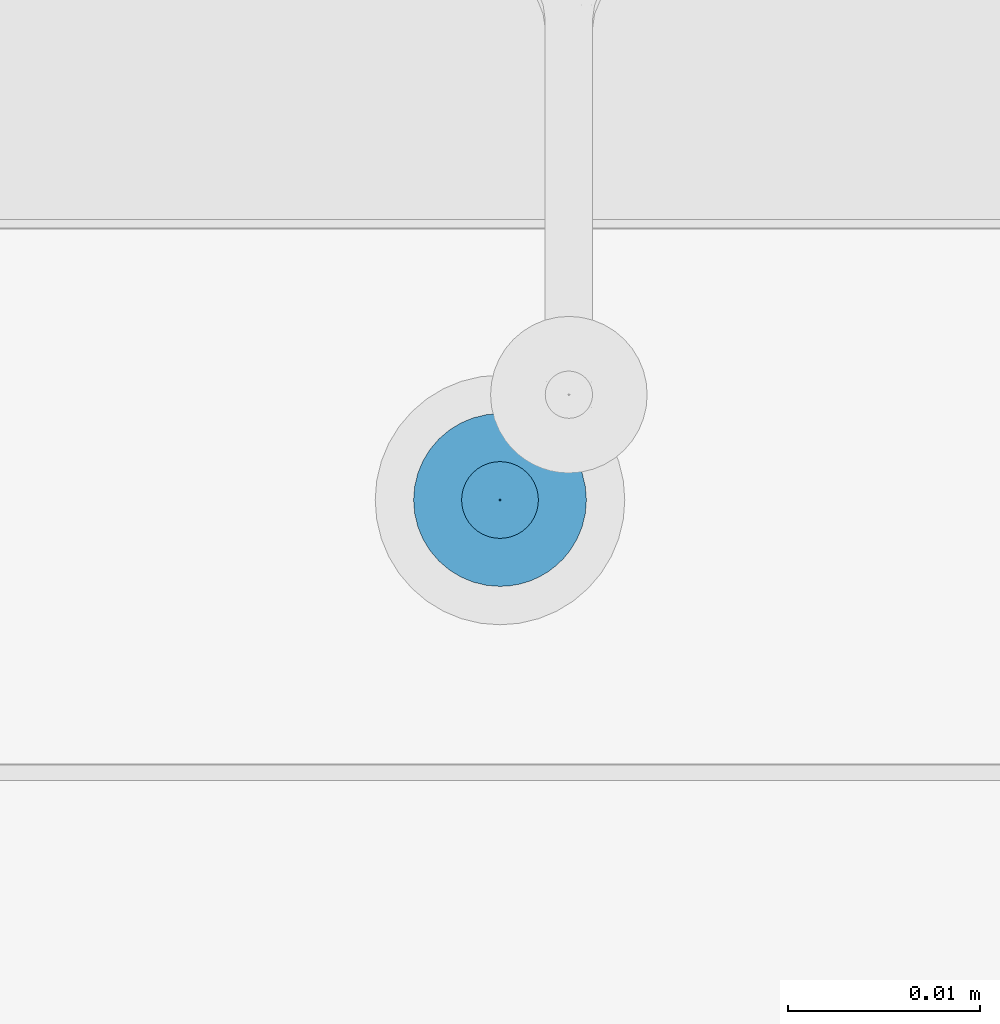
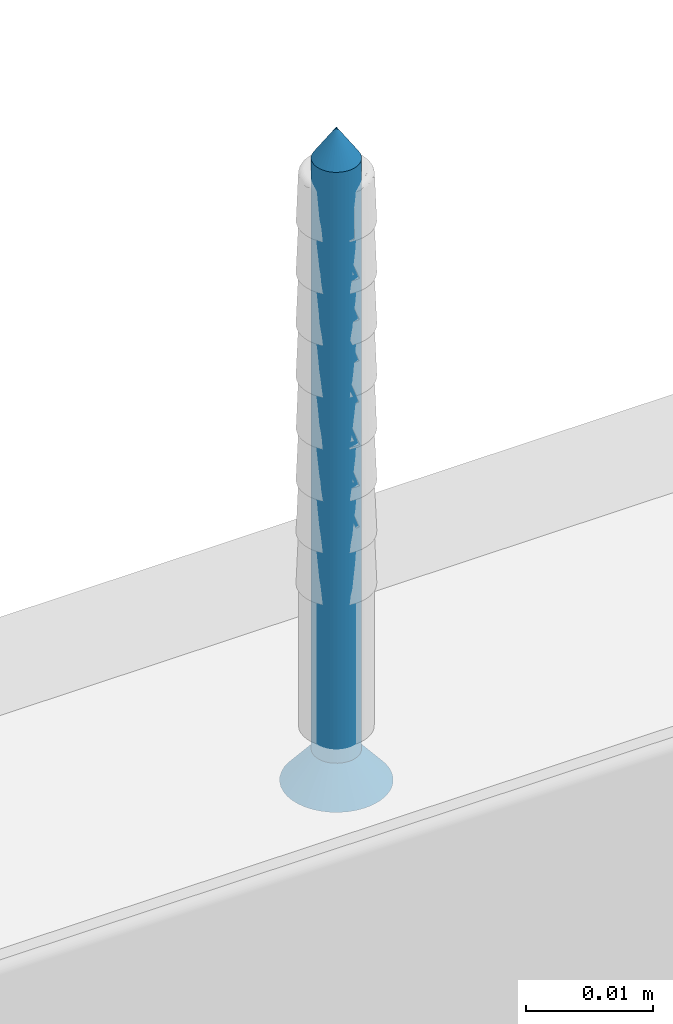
# One storey, part 66 of 79: 1 slab.
"""IFC2X3 building model written with IfcOpenShell, lengths in millimetres."""

import ifcopenshell
import ifcopenshell.guid

model = None  # the IFC model being written
_history = None  # IfcOwnerHistory: only IFC2X3 demands one
_inside = {}  # id of a spatial element -> (the spatial element, [elements in it])
_under = {}  # id of a project, library or spatial element -> (it, [spatial elements below it])
_declared = {}  # id of a project -> (the project, [libraries it declares])
_typed = {}  # id of a type object -> (the type object, [elements of that type])
_made_of = {}  # id of a material, layer set ... -> (it, [elements and type objects made of it])


def new_model(schema):
    """Start an empty IFC model of exactly this schema.

    Asked for "IFC4X3", IfcOpenShell would pick the latest addendum, in which some entities
    have other attributes; the version numbers below select the first issue.
    IFC2X3 requires an IfcOwnerHistory on every rooted entity: one is made here for all.
    """
    global model, _history
    if schema == "IFC4X3":
        model = ifcopenshell.file(schema_version=(4, 3, 0, 0))
    else:
        model = ifcopenshell.file(schema=schema)
    _inside.clear()
    _under.clear()
    _declared.clear()
    _typed.clear()
    _made_of.clear()
    _history = None
    if model.schema == "IFC2X3":
        org = make("IfcOrganization", Name="unknown")
        user = make(
            "IfcPersonAndOrganization",
            ThePerson=make("IfcPerson", FamilyName="unknown"),
            TheOrganization=org,
        )
        app = make(
            "IfcApplication",
            ApplicationDeveloper=org,
            Version="unknown",
            ApplicationFullName="unknown",
            ApplicationIdentifier="unknown",
        )
        _history = make(
            "IfcOwnerHistory",
            OwningUser=user,
            OwningApplication=app,
            ChangeAction="ADDED",
            CreationDate=0,
        )
    return model


def make(cls, **values):
    """One entity of the class cls with the attributes given. An attribute that is None is left unset."""
    return model.create_entity(
        cls, **{name: value for name, value in values.items() if value is not None}
    )


def entity(cls, *values):
    """Any entity or typed value of the class cls, its attributes in the order of the schema. None: left unset."""
    e = model.create_entity(cls)
    for i, value in enumerate(values):
        if value is not None:
            e[i] = value
    return e


def rooted(cls, **values):
    """An entity with a GlobalId (a new one), such as an element, a storey or a relation."""
    return make(cls, GlobalId=ifcopenshell.guid.new(), OwnerHistory=_history, **values)


def si_unit(unit_type, name, prefix=None):
    """IfcSIUnit, for example si_unit("LENGTHUNIT", "METRE", prefix="MILLI")."""
    return make("IfcSIUnit", UnitType=unit_type, Prefix=prefix, Name=name)


def converted_unit(unit_type, name, factor, base, dimensions=None, offset=None):
    """IfcConversionBasedUnit, such as the inch: factor (a typed value) times the base unit."""
    return make(
        "IfcConversionBasedUnit"
        if offset is None
        else "IfcConversionBasedUnitWithOffset",
        ConversionOffset=offset,
        Dimensions=None
        if dimensions is None
        else entity("IfcDimensionalExponents", *dimensions),
        UnitType=unit_type,
        Name=name,
        ConversionFactor=make(
            "IfcMeasureWithUnit", ValueComponent=factor, UnitComponent=base
        ),
    )


def assignment(units):
    """IfcUnitAssignment: the units of a project."""
    return None if units is None else make("IfcUnitAssignment", Units=units)


def point(xyz):
    """IfcCartesianPoint."""
    return None if xyz is None else make("IfcCartesianPoint", Coordinates=xyz)


def direction(xyz):
    """IfcDirection."""
    return None if xyz is None else make("IfcDirection", DirectionRatios=xyz)


def frame(location, z_axis=None, x_axis=None):
    """IfcAxis2Placement3D, a coordinate frame: its origin and axes. An axis left out is left unset."""
    return make(
        "IfcAxis2Placement3D",
        Location=point(location),
        Axis=direction(z_axis),
        RefDirection=direction(x_axis),
    )


def origin():
    """The frame at (0, 0, 0) with its axes left unset."""
    return frame((0.0, 0.0, 0.0))


def origin_with_axes():
    """The frame at (0, 0, 0) with the z axis (0, 0, 1) and the x axis (1, 0, 0) written out."""
    return frame((0.0, 0.0, 0.0), z_axis=(0.0, 0.0, 1.0), x_axis=(1.0, 0.0, 0.0))


def place(relative_to, where):
    """IfcLocalPlacement: puts the frame where relative to a parent placement (None: the world)."""
    return make(
        "IfcLocalPlacement", PlacementRelTo=relative_to, RelativePlacement=where
    )


def context(
    kind, dimensions, precision=None, world=None, true_north=None, identifier=None
):
    """IfcGeometricRepresentationContext, for example the 3D "Model" context."""
    return make(
        "IfcGeometricRepresentationContext",
        ContextIdentifier=identifier,
        ContextType=kind,
        CoordinateSpaceDimension=dimensions,
        Precision=precision,
        WorldCoordinateSystem=world,
        TrueNorth=true_north,
    )


def project(units=None, contexts=None):
    """IfcProject with its units and contexts."""
    return rooted(
        "IfcProject",
        Name="project",
        RepresentationContexts=contexts,
        UnitsInContext=assignment(units),
    )


def spatial(cls, under=None, at=None, **own):
    """A site, building, storey or space (cls), placed at a placement, below another one or the project."""
    s = rooted(cls, ObjectPlacement=at, **own)
    if under is not None:
        _under.setdefault(under.id(), (under, []))[1].append(s)
    return s


def faces_of(points, faces, orient=None, outer=None):
    """IfcFace entities. A face is a list of loops; a loop is a list of indices into points, from 0.

    orient and outer hold one flag for each loop. By default every Orientation is true, the
    first loop of a face is its IfcFaceOuterBound and the others are IfcFaceBound.
    """
    made = []
    for i, loops in enumerate(faces):
        bounds = []
        for j, loop in enumerate(loops):
            is_outer = j == 0 if outer is None else outer[i][j]
            bounds.append(
                make(
                    "IfcFaceOuterBound" if is_outer else "IfcFaceBound",
                    Bound=make("IfcPolyLoop", Polygon=[points[k] for k in loop]),
                    Orientation=True if orient is None else orient[i][j],
                )
            )
        made.append(make("IfcFace", Bounds=bounds))
    return made


def faceted_brep(points, faces, orient=None, outer=None, voids=None):
    """IfcFacetedBrep: a solid bounded by flat faces; with voids (closed shells), ...WithVoids."""
    shared = [point(p) for p in points]
    hull = make("IfcClosedShell", CfsFaces=faces_of(shared, faces, orient, outer))
    if voids is None:
        return make("IfcFacetedBrep", Outer=hull)
    return make(
        "IfcFacetedBrepWithVoids",
        Outer=hull,
        Voids=[
            make(cls, CfsFaces=faces_of(shared, fs, o, b)) for cls, fs, o, b in voids
        ],
    )


def shape(context_of_items, identifier, shape_type, items):
    """IfcShapeRepresentation: the items that make up one representation, for example the "Body"."""
    return make(
        "IfcShapeRepresentation",
        ContextOfItems=context_of_items,
        RepresentationIdentifier=identifier,
        RepresentationType=shape_type,
        Items=items,
    )


def made_of(thing, what):
    """Note that an element or type object is made of a material, layer set ...; save() writes the relation."""
    if what is not None:
        _made_of.setdefault(what.id(), (what, []))[1].append(thing)
    return thing


def element(
    cls,
    number,
    at=None,
    inside=None,
    cuts=None,
    type_object=None,
    material=None,
    context=None,
    identifier="Body",
    shape_type=None,
    held_by="IfcProductDefinitionShape",
    body=None,
    shapes=None,
    **own,
):
    """One element of the class cls, such as IfcWall. Its Tag is "e" and its number.

    at: its placement. inside: the storey or other place that contains it. cuts: it is an
    opening in that element (IfcRelVoidsElement). A single representation is given by context,
    identifier, shape_type and body (its items); several are given by shapes. held_by: the class
    of the entity that holds the representations. save() writes the other relations.
    """
    e = rooted(cls, Tag="e%d" % number, ObjectPlacement=at, **own)
    if body is not None:
        shapes = [shape(context, identifier, shape_type, body)]
    if shapes is not None:
        e.Representation = make(held_by, Representations=shapes)
    if inside is not None:
        _inside.setdefault(inside.id(), (inside, []))[1].append(e)
    if cuts is not None:
        rooted(
            "IfcRelVoidsElement", RelatingBuildingElement=cuts, RelatedOpeningElement=e
        )
    if type_object is not None:
        _typed.setdefault(type_object.id(), (type_object, []))[1].append(e)
    return made_of(e, material)


def aggregate(whole, parts):
    """IfcRelAggregates: a whole, such as a stair, and the parts it consists of."""
    return rooted("IfcRelAggregates", RelatingObject=whole, RelatedObjects=parts)


def save(model, path):
    """Write the relations noted so far, then the file.

    IfcRelAggregates (storeys below a building ...), IfcRelContainedInSpatialStructure (elements
    in a storey), IfcRelDefinesByType, IfcRelAssociatesMaterial and IfcRelDeclares: one each for
    every whole, place, type object, material and project.
    """
    for whole, parts in _under.values():
        aggregate(whole, parts)
    for where, things in _inside.values():
        rooted(
            "IfcRelContainedInSpatialStructure",
            RelatedElements=things,
            RelatingStructure=where,
        )
    for kind, things in _typed.values():
        rooted("IfcRelDefinesByType", RelatedObjects=things, RelatingType=kind)
    for what, things in _made_of.values():
        rooted("IfcRelAssociatesMaterial", RelatedObjects=things, RelatingMaterial=what)
    for by, libraries in _declared.values():
        rooted("IfcRelDeclares", RelatingContext=by, RelatedDefinitions=libraries)
    model.write(path)


model = new_model("IFC2X3")

# Units and contexts
model_context = context("Model", 3, precision=1e-05, world=origin(), true_north=direction((0.0, 1.0, 0.0)))
ifc_project = project(units=[si_unit("LENGTHUNIT", "METRE", prefix="MILLI"), si_unit("AREAUNIT", "SQUARE_METRE"), si_unit("VOLUMEUNIT", "CUBIC_METRE"), converted_unit("PLANEANGLEUNIT", "DEGREE", entity("IfcPlaneAngleMeasure", 0.01745), si_unit("PLANEANGLEUNIT", "RADIAN"), dimensions=[0, 0, 0, 0, 0, 0, 0]), si_unit("SOLIDANGLEUNIT", "STERADIAN"), si_unit("MASSUNIT", "GRAM"), si_unit("TIMEUNIT", "SECOND"), si_unit("THERMODYNAMICTEMPERATUREUNIT", "DEGREE_CELSIUS"), si_unit("LUMINOUSINTENSITYUNIT", "LUMEN")], contexts=[model_context])

# Site, building, storey
site_placement = place(None, origin_with_axes())
site = spatial("IfcSite", under=ifc_project, at=site_placement, Name="Default Site", CompositionType="ELEMENT")
building_placement = place(site_placement, origin_with_axes())
building = spatial("IfcBuilding", under=site, at=building_placement, Name="Default Building", CompositionType="ELEMENT")
storey_placement = place(building_placement, origin_with_axes())
storey = spatial("IfcBuildingStorey", under=building, at=storey_placement, Name="Default Building Storey", CompositionType="ELEMENT", Elevation=0.0)

# Slab
slab_placement = place(storey_placement, frame((2009.755928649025, 5660.599858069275, 1375.213337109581), z_axis=(-7.620176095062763e-14, -6.858158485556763e-13, -1.0), x_axis=(-1.0, -9.714451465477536e-17, 7.620176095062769e-14)))
element("IfcSlab", 1, at=slab_placement, inside=storey, Name="Stalowy element mocujący", context=model_context, shape_type="Brep", body=[
    faceted_brep([(-1438.31414949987, -3453.283223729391, -0.4642567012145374), (-1435.814149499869, -3453.283223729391, -3.464256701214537), (-1435.78952618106, -3452.97035479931, -3.464256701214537), (-1438.258747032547, -3452.57926863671, -0.4642567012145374), (-1435.71626253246, -3452.665189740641, -3.464256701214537), (-1438.093903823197, -3451.892647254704, -0.4642567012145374), (-1435.596162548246, -3452.375242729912, -3.464256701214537), (-1437.823678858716, -3451.240266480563, -0.4642567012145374), (-1435.432183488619, -3452.107653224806, -3.464256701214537), (-1437.454725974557, -3450.638190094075, -0.4642567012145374), (-1435.228363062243, -3451.869010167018, -3.464256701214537), (-1436.996130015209, -3450.101243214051, -0.4642567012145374), (-1434.989720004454, -3451.665189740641, -3.464256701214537), (-1436.459183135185, -3449.642647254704, -0.4642567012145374), (-1434.722130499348, -3451.501210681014, -3.464256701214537), (-1435.857106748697, -3449.273694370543, -0.4642567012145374), (-1434.432183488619, -3451.381110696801, -3.464256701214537), (-1435.204725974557, -3449.003469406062, -0.4642567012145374), (-1434.12701842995, -3451.307847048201, -3.464256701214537), (-1434.51810459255, -3448.838626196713, -0.4642567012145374), (-1433.814149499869, -3451.283223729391, -3.464256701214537), (-1433.814149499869, -3448.783223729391, -0.4642567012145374), (-1433.501280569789, -3451.307847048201, -3.464256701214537), (-1433.110194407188, -3448.838626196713, -0.4642567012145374), (-1433.19611551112, -3451.381110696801, -3.464256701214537), (-1432.423573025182, -3449.003469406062, -0.4642567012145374), (-1432.906168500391, -3451.501210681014, -3.464256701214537), (-1431.771192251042, -3449.273694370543, -0.4642567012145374), (-1432.638578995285, -3451.665189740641, -3.464256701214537), (-1431.169115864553, -3449.642647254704, -0.4642567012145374), (-1432.399935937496, -3451.869010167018, -3.464256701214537), (-1430.63216898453, -3450.101243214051, -0.4642567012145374), (-1432.196115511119, -3452.107653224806, -3.464256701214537), (-1430.173573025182, -3450.638190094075, -0.4642567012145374), (-1432.032136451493, -3452.375242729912, -3.464256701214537), (-1429.804620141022, -3451.240266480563, -0.4642567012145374), (-1431.912036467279, -3452.665189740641, -3.464256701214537), (-1429.534395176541, -3451.892647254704, -0.4642567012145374), (-1431.838772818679, -3453.596092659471, -3.464256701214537), (-1429.369551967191, -3453.987178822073, -0.4642567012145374), (-1429.314149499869, -3453.283223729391, -0.4642567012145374), (-1431.81414949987, -3453.283223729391, -3.464256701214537), (-1429.369551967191, -3452.57926863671, -0.4642567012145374), (-1431.838772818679, -3452.97035479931, -3.464256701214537), (-1431.912036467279, -3453.901257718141, -3.464256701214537), (-1429.534395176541, -3454.673800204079, -0.4642567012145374), (-1432.032136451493, -3454.19120472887, -3.464256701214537), (-1429.804620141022, -3455.326180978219, -0.4642567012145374), (-1432.196115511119, -3454.458794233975, -3.464256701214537), (-1430.173573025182, -3455.928257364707, -0.4642567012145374), (-1432.399935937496, -3454.697437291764, -3.464256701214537), (-1430.63216898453, -3456.465204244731, -0.4642567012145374), (-1432.638578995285, -3454.901257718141, -3.464256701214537), (-1431.169115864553, -3456.923800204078, -0.4642567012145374), (-1432.906168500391, -3455.065236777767, -3.464256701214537), (-1431.771192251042, -3457.292753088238, -0.4642567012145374), (-1433.19611551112, -3455.185336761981, -3.464256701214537), (-1432.423573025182, -3457.562978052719, -0.4642567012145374), (-1433.501280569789, -3455.258600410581, -3.464256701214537), (-1433.110194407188, -3457.727821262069, -0.4642567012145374), (-1433.814149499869, -3455.283223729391, -3.464256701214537), (-1433.814149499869, -3457.783223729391, -0.4642567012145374), (-1434.34306778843, -3457.752031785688, -0.4642567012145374), (-1434.12701842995, -3455.258600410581, -3.464256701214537), (-1434.432183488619, -3455.185336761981, -3.464256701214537), (-1434.864653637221, -3457.658888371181, -0.4642567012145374), (-1435.371676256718, -3457.505084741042, -0.4642567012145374), (-1434.722130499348, -3455.065236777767, -3.464256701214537), (-1435.857106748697, -3457.292753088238, -0.4642567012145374), (-1434.989720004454, -3454.901257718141, -3.464256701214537), (-1435.228363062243, -3454.697437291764, -3.464256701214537), (-1436.314215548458, -3457.024836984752, -0.4642567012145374), (-1436.736665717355, -3456.705050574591, -0.4642567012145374), (-1437.11860079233, -3456.337827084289, -0.4642567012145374), (-1437.454725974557, -3455.928257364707, -0.4642567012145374), (-1435.432183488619, -3454.458794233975, -3.464256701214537), (-1435.596162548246, -3454.19120472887, -3.464256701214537), (-1437.823678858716, -3455.326180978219, -0.4642567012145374), (-1435.71626253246, -3453.901257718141, -3.464256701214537), (-1438.093903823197, -3454.673800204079, -0.4642567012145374), (-1435.78952618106, -3453.596092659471, -3.464256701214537), (-1438.258747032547, -3453.987178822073, -0.4642567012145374), (-1434.205235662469, -3455.752444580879, 0.2007375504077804), (-1433.814149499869, -3455.78322372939, 0.2007375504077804), (-1434.586691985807, -3455.660865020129, 0.2007375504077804), (-1434.949125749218, -3455.510740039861, 0.2007375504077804), (-1435.283612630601, -3455.305766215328, 0.2007375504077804), (-1435.581916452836, -3455.050990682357, 0.2007375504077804), (-1435.836691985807, -3454.752686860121, 0.2007375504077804), (-1436.04166581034, -3454.41819997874, 0.2007375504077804), (-1436.191790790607, -3454.055766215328, 0.2007375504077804), (-1436.283370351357, -3453.674309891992, 0.2007375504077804), (-1436.314149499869, -3453.283223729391, 0.2007375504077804), (-1436.283370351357, -3452.892137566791, 0.2007375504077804), (-1436.191790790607, -3452.510681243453, 0.2007375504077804), (-1436.04166581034, -3452.148247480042, 0.2007375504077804), (-1435.836691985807, -3451.81376059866, 0.200737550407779), (-1435.581916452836, -3451.515456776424, 0.2007375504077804), (-1435.283612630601, -3451.260681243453, 0.2007375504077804), (-1434.949125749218, -3451.05570741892, 0.2007375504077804), (-1434.586691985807, -3450.905582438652, 0.2007375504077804), (-1433.423063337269, -3450.814002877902, 0.2007375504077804), (-1433.814149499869, -3450.783223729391, 0.2007375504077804), (-1434.205235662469, -3450.814002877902, 0.2007375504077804), (-1433.041607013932, -3450.905582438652, 0.2007375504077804), (-1432.67917325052, -3451.05570741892, 0.2007375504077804), (-1432.344686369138, -3451.260681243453, 0.2007375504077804), (-1432.046382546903, -3451.515456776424, 0.2007375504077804), (-1431.791607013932, -3451.81376059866, 0.2007375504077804), (-1431.586633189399, -3452.148247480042, 0.2007375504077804), (-1431.436508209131, -3452.510681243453, 0.2007375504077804), (-1431.344928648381, -3452.892137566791, 0.2007375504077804), (-1431.314149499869, -3453.283223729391, 0.2007375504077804), (-1431.344928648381, -3453.674309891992, 0.2007375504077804), (-1431.436508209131, -3454.055766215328, 0.2007375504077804), (-1431.586633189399, -3454.41819997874, 0.2007375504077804), (-1431.791607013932, -3454.752686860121, 0.2007375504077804), (-1432.046382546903, -3455.050990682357, 0.2007375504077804), (-1432.344686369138, -3455.305766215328, 0.2007375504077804), (-1432.67917325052, -3455.510740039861, 0.2007375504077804), (-1433.041607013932, -3455.660865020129, 0.2007375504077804), (-1433.423063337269, -3455.752444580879, 0.2007375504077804), (-1433.814149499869, -3453.283223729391, -63.46425670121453), (-1435.789526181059, -3452.97035479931, -60.46425670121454), (-1435.814149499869, -3453.283223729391, -60.46425670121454), (-1435.716262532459, -3452.665189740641, -60.46425670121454), (-1435.596162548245, -3452.375242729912, -60.46425670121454), (-1435.432183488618, -3452.107653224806, -60.46425670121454), (-1435.228363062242, -3451.869010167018, -60.46425670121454), (-1434.989720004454, -3451.665189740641, -60.46425670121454), (-1434.722130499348, -3451.501210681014, -60.46425670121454), (-1434.432183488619, -3451.381110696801, -60.46425670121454), (-1434.127018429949, -3451.307847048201, -60.46425670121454), (-1433.814149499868, -3451.283223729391, -60.46425670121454), (-1433.501280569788, -3451.307847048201, -60.46425670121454), (-1433.196115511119, -3451.381110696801, -60.46425670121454), (-1432.90616850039, -3451.501210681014, -60.46425670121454), (-1432.638578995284, -3451.665189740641, -60.46425670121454), (-1432.399935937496, -3451.869010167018, -60.46425670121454), (-1432.196115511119, -3452.107653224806, -60.46425670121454), (-1432.032136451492, -3452.375242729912, -60.46425670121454), (-1431.912036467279, -3452.665189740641, -60.46425670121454), (-1431.838772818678, -3452.97035479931, -60.46425670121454), (-1431.814149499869, -3453.283223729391, -60.46425670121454), (-1431.838772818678, -3453.596092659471, -60.46425670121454), (-1431.912036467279, -3453.901257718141, -60.46425670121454), (-1432.032136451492, -3454.19120472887, -60.46425670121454), (-1432.196115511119, -3454.458794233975, -60.46425670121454), (-1432.399935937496, -3454.697437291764, -60.46425670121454), (-1432.638578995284, -3454.901257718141, -60.46425670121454), (-1432.90616850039, -3455.065236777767, -60.46425670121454), (-1433.196115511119, -3455.185336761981, -60.46425670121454), (-1433.501280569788, -3455.258600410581, -60.46425670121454), (-1433.814149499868, -3455.283223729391, -60.46425670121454), (-1434.127018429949, -3455.258600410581, -60.46425670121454), (-1434.432183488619, -3455.185336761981, -60.46425670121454), (-1434.722130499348, -3455.065236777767, -60.46425670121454), (-1434.989720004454, -3454.901257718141, -60.46425670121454), (-1435.228363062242, -3454.697437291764, -60.46425670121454), (-1435.432183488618, -3454.458794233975, -60.46425670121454), (-1435.596162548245, -3454.19120472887, -60.46425670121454), (-1435.716262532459, -3453.901257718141, -60.46425670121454), (-1435.789526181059, -3453.596092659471, -60.46425670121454), (-1435.814149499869, -3453.783223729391, 0.04999999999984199), (-1436.04166581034, -3454.41819997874, 0.04999999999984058), (-1436.191790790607, -3454.055766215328, 0.04999999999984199), (-1435.814149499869, -3452.783223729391, 0.04999999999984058), (-1434.314149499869, -3453.783223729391, 0.04999999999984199), (-1434.314149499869, -3455.28322372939, 0.04999999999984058), (-1433.314149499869, -3455.28322372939, 0.04999999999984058), (-1433.314149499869, -3453.783223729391, 0.04999999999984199), (-1431.814149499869, -3453.783223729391, 0.04999999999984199), (-1431.814149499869, -3452.783223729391, 0.04999999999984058), (-1433.314149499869, -3452.783223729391, 0.04999999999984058), (-1433.314149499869, -3451.283223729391, 0.04999999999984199), (-1434.314149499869, -3451.283223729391, 0.04999999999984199), (-1434.314149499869, -3452.783223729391, 0.04999999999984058), (-1436.283370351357, -3453.674309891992, 0.04999999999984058), (-1436.314149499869, -3453.283223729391, 0.04999999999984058), (-1436.283370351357, -3452.892137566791, 0.04999999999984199), (-1436.191790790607, -3452.510681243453, 0.04999999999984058), (-1436.04166581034, -3452.148247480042, 0.04999999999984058), (-1435.836691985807, -3451.81376059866, 0.04999999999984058), (-1435.581916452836, -3451.515456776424, 0.04999999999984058), (-1435.283612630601, -3451.260681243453, 0.04999999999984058), (-1434.949125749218, -3451.05570741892, 0.04999999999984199), (-1434.586691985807, -3450.905582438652, 0.04999999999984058), (-1434.205235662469, -3450.814002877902, 0.04999999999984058), (-1433.814149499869, -3450.783223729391, 0.04999999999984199), (-1433.423063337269, -3450.814002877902, 0.04999999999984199), (-1433.041607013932, -3450.905582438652, 0.04999999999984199), (-1432.67917325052, -3451.05570741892, 0.04999999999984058), (-1432.344686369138, -3451.260681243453, 0.04999999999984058), (-1432.046382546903, -3451.515456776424, 0.04999999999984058), (-1431.791607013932, -3451.81376059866, 0.04999999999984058), (-1431.586633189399, -3452.148247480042, 0.04999999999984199), (-1431.436508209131, -3452.510681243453, 0.04999999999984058), (-1431.344928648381, -3452.892137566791, 0.04999999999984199), (-1431.314149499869, -3453.283223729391, 0.04999999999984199), (-1431.344928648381, -3453.674309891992, 0.04999999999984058), (-1431.436508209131, -3454.055766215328, 0.04999999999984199), (-1431.586633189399, -3454.41819997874, 0.04999999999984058), (-1431.791607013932, -3454.752686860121, 0.04999999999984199), (-1432.046382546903, -3455.050990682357, 0.04999999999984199), (-1432.344686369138, -3455.305766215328, 0.04999999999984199), (-1432.67917325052, -3455.510740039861, 0.04999999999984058), (-1433.041607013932, -3455.660865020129, 0.04999999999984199), (-1433.423063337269, -3455.752444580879, 0.04999999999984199), (-1433.814149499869, -3455.78322372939, 0.04999999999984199), (-1434.205235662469, -3455.752444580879, 0.04999999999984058), (-1434.586691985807, -3455.660865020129, 0.04999999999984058), (-1434.949125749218, -3455.510740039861, 0.04999999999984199), (-1435.283612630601, -3455.305766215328, 0.04999999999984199), (-1435.581916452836, -3455.050990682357, 0.04999999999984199), (-1435.836691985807, -3454.752686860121, 0.04999999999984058), (-1434.314149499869, -3452.783223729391, -1.79926244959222), (-1434.314149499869, -3451.283223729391, -1.799262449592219), (-1433.314149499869, -3451.283223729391, -1.799262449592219), (-1433.314149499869, -3452.783223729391, -1.79926244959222), (-1431.81414949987, -3452.783223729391, -1.79926244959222), (-1431.81414949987, -3453.783223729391, -1.799262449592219), (-1433.314149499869, -3453.783223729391, -1.799262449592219), (-1433.314149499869, -3455.28322372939, -1.79926244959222), (-1434.314149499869, -3455.28322372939, -1.79926244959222), (-1434.314149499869, -3453.783223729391, -1.799262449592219), (-1435.814149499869, -3453.783223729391, -1.799262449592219), (-1435.814149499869, -3452.783223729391, -1.79926244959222)], [[[0, 1, 2, 3]], [[4, 5, 3, 2]], [[6, 7, 5, 4]], [[7, 6, 8, 9]], [[10, 11, 9, 8]], [[11, 10, 12, 13]], [[14, 15, 13, 12]], [[16, 17, 15, 14]], [[17, 16, 18, 19]], [[20, 21, 19, 18]], [[21, 20, 22, 23]], [[24, 25, 23, 22]], [[26, 27, 25, 24]], [[27, 26, 28, 29]], [[30, 31, 29, 28]], [[31, 30, 32, 33]], [[34, 35, 33, 32]], [[36, 37, 35, 34]], [[38, 39, 40, 41]], [[41, 40, 42, 43]], [[37, 36, 43, 42]], [[44, 45, 39, 38]], [[46, 47, 45, 44]], [[47, 46, 48, 49]], [[50, 51, 49, 48]], [[51, 50, 52, 53]], [[54, 55, 53, 52]], [[56, 57, 55, 54]], [[57, 56, 58, 59]], [[60, 61, 59, 58]], [[62, 61, 63]], [[61, 60, 63]], [[63, 64, 62]], [[64, 65, 62]], [[66, 65, 64]], [[64, 67, 66]], [[67, 68, 66]], [[69, 70, 71]], [[70, 72, 71]], [[71, 68, 69]], [[68, 67, 69]], [[70, 73, 72]], [[74, 73, 75]], [[73, 70, 75]], [[76, 77, 74, 75]], [[78, 79, 77, 76]], [[79, 78, 80, 81]], [[1, 0, 81, 80]], [[82, 83, 62]], [[83, 61, 62]], [[62, 65, 82]], [[65, 84, 82]], [[66, 68, 84]], [[68, 85, 84]], [[84, 65, 66]], [[86, 85, 71]], [[85, 68, 71]], [[72, 73, 87]], [[87, 86, 72]], [[86, 71, 72]], [[88, 87, 74]], [[87, 73, 74]], [[77, 89, 88, 74]], [[79, 90, 89, 77]], [[90, 79, 81, 91]], [[0, 92, 91, 81]], [[92, 0, 3, 93]], [[5, 94, 93, 3]], [[7, 95, 94, 5]], [[95, 7, 9, 96]], [[11, 97, 96, 9]], [[97, 11, 13, 98]], [[15, 99, 98, 13]], [[17, 100, 99, 15]], [[23, 101, 102, 21]], [[21, 102, 103, 19]], [[100, 17, 19, 103]], [[25, 104, 101, 23]], [[27, 105, 104, 25]], [[105, 27, 29, 106]], [[31, 107, 106, 29]], [[107, 31, 33, 108]], [[35, 109, 108, 33]], [[37, 110, 109, 35]], [[110, 37, 42, 111]], [[40, 112, 111, 42]], [[112, 40, 39, 113]], [[45, 114, 113, 39]], [[47, 115, 114, 45]], [[115, 47, 49, 116]], [[51, 117, 116, 49]], [[117, 51, 53, 118]], [[55, 119, 118, 53]], [[57, 120, 119, 55]], [[120, 57, 59, 121]], [[61, 83, 121, 59]], [[122, 123, 124]], [[122, 125, 123]], [[122, 126, 125]], [[127, 126, 122]], [[122, 128, 127]], [[129, 128, 122]], [[122, 130, 129]], [[122, 131, 130]], [[132, 131, 122]], [[122, 133, 132]], [[134, 133, 122]], [[122, 135, 134]], [[122, 136, 135]], [[137, 136, 122]], [[122, 138, 137]], [[139, 138, 122]], [[122, 140, 139]], [[122, 141, 140]], [[142, 141, 122]], [[122, 143, 142]], [[144, 143, 122]], [[122, 145, 144]], [[122, 146, 145]], [[147, 146, 122]], [[122, 148, 147]], [[149, 148, 122]], [[122, 150, 149]], [[122, 151, 150]], [[152, 151, 122]], [[122, 153, 152]], [[154, 153, 122]], [[122, 155, 154]], [[122, 156, 155]], [[157, 156, 122]], [[122, 158, 157]], [[159, 158, 122]], [[122, 160, 159]], [[122, 161, 160]], [[162, 161, 122]], [[124, 162, 122]], [[1, 124, 123, 2]], [[125, 4, 2, 123]], [[126, 6, 4, 125]], [[6, 126, 127, 8]], [[128, 10, 8, 127]], [[10, 128, 129, 12]], [[130, 14, 12, 129]], [[131, 16, 14, 130]], [[16, 131, 132, 18]], [[133, 20, 18, 132]], [[20, 133, 134, 22]], [[135, 24, 22, 134]], [[136, 26, 24, 135]], [[26, 136, 137, 28]], [[138, 30, 28, 137]], [[30, 138, 139, 32]], [[140, 34, 32, 139]], [[141, 36, 34, 140]], [[144, 38, 41, 143]], [[143, 41, 43, 142]], [[36, 141, 142, 43]], [[145, 44, 38, 144]], [[146, 46, 44, 145]], [[46, 146, 147, 48]], [[148, 50, 48, 147]], [[50, 148, 149, 52]], [[150, 54, 52, 149]], [[151, 56, 54, 150]], [[56, 151, 152, 58]], [[153, 60, 58, 152]], [[60, 153, 154, 63]], [[155, 64, 63, 154]], [[156, 67, 64, 155]], [[67, 156, 157, 69]], [[158, 70, 69, 157]], [[70, 158, 159, 75]], [[160, 76, 75, 159]], [[161, 78, 76, 160]], [[78, 161, 162, 80]], [[124, 1, 80, 162]], [[163, 164, 165, 166]], [[163, 167, 168, 169, 170, 171, 172, 173, 174, 175, 176, 166, 165, 177, 178, 179, 180, 181, 182, 183, 184, 185, 186, 187, 188, 189, 190, 191, 192, 193, 194, 195, 196, 197, 198, 199, 200, 201, 202, 203, 204, 205, 206, 207, 208, 209, 210, 211, 212, 213, 214, 164]], [[199, 198, 112, 113]], [[113, 114, 200, 199]], [[114, 115, 201, 200]], [[202, 201, 115, 116]], [[116, 117, 203, 202]], [[204, 203, 117, 118]], [[118, 119, 205, 204]], [[119, 120, 206, 205]], [[207, 206, 120, 121]], [[121, 83, 208, 207]], [[209, 208, 83, 82]], [[82, 84, 210, 209]], [[84, 85, 211, 210]], [[212, 211, 85, 86]], [[86, 87, 213, 212]], [[214, 213, 87, 88]], [[88, 89, 164, 214]], [[89, 90, 165, 164]], [[92, 93, 179, 178]], [[91, 92, 178, 177]], [[177, 165, 90, 91]], [[93, 94, 180, 179]], [[94, 95, 181, 180]], [[182, 181, 95, 96]], [[96, 97, 183, 182]], [[184, 183, 97, 98]], [[98, 99, 185, 184]], [[99, 100, 186, 185]], [[187, 186, 100, 103]], [[103, 102, 188, 187]], [[189, 188, 102, 101]], [[101, 104, 190, 189]], [[104, 105, 191, 190]], [[192, 191, 105, 106]], [[106, 107, 193, 192]], [[194, 193, 107, 108]], [[108, 109, 195, 194]], [[109, 110, 196, 195]], [[197, 196, 110, 111]], [[111, 112, 198, 197]], [[215, 216, 217, 218, 219, 220, 221, 222, 223, 224, 225, 226]], [[216, 175, 174, 217]], [[215, 176, 175, 216]], [[226, 166, 176, 215]], [[225, 163, 166, 226]], [[224, 167, 163, 225]], [[223, 168, 167, 224]], [[222, 169, 168, 223]], [[221, 170, 169, 222]], [[220, 171, 170, 221]], [[219, 172, 171, 220]], [[218, 173, 172, 219]], [[217, 174, 173, 218]]]),
])

save(model, "model.ifc")
